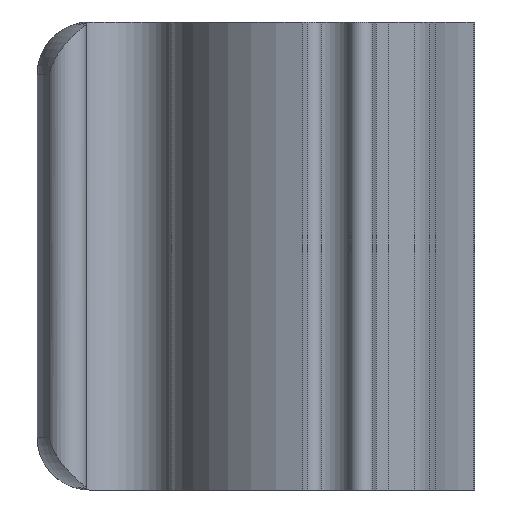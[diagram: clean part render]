
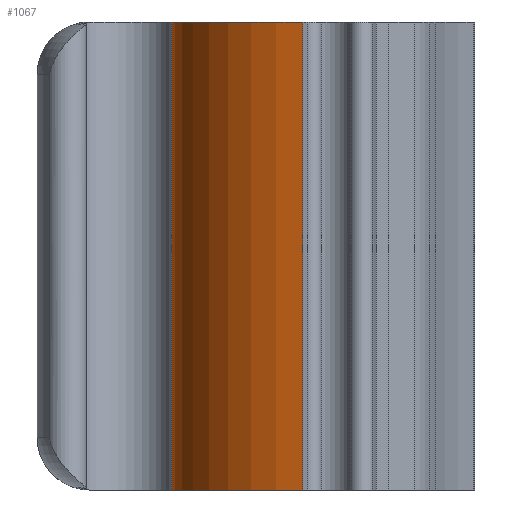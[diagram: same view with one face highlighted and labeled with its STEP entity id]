
A CAD part, front view. The second image highlights one B-rep face of the part: STEP entity #1067.
In plain terms, the highlighted cylindrical face has radius 6.988 mm (diameter 13.976 mm), a partial arc.
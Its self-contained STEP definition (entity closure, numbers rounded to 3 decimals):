
#1009=CARTESIAN_POINT('',(-5.439,-18.561,17.701));
#1010=VERTEX_POINT('',#1009);
#1018=CARTESIAN_POINT('',(-5.439,-18.561,0.001));
#1019=VERTEX_POINT('',#1018);
#1026=CARTESIAN_POINT('',(-5.439,-18.561,0.001));
#1027=DIRECTION('',(0.,0.,1.));
#1028=VECTOR('',#1027,17.7);
#1029=LINE('',#1026,#1028);
#1030=EDGE_CURVE('',#1019,#1010,#1029,.T.);
#1035=CARTESIAN_POINT('',(1.548,-18.434,0.001));
#1036=DIRECTION('',(0.,0.,1.));
#1037=DIRECTION('',(1.,0.,-0.));
#1038=AXIS2_PLACEMENT_3D('',#1035,#1036,#1037);
#1039=CYLINDRICAL_SURFACE('',#1038,6.988);
#1040=CARTESIAN_POINT('',(-0.49,-25.118,17.701));
#1041=VERTEX_POINT('',#1040);
#1042=CARTESIAN_POINT('',(1.548,-18.434,17.701));
#1043=DIRECTION('',(0.,0.,1.));
#1044=DIRECTION('',(1.,0.,-0.));
#1045=AXIS2_PLACEMENT_3D('',#1042,#1043,#1044);
#1046=CIRCLE('',#1045,6.988);
#1047=EDGE_CURVE('',#1010,#1041,#1046,.T.);
#1048=ORIENTED_EDGE('',*,*,#1047,.F.);
#1049=ORIENTED_EDGE('',*,*,#1030,.F.);
#1050=CARTESIAN_POINT('',(-0.49,-25.118,0.001));
#1051=VERTEX_POINT('',#1050);
#1052=CARTESIAN_POINT('',(1.548,-18.434,0.001));
#1053=DIRECTION('',(0.,0.,1.));
#1054=DIRECTION('',(1.,0.,-0.));
#1055=AXIS2_PLACEMENT_3D('',#1052,#1053,#1054);
#1056=CIRCLE('',#1055,6.988);
#1057=EDGE_CURVE('',#1019,#1051,#1056,.T.);
#1058=ORIENTED_EDGE('',*,*,#1057,.T.);
#1059=CARTESIAN_POINT('',(-0.49,-25.118,0.001));
#1060=DIRECTION('',(0.,0.,1.));
#1061=VECTOR('',#1060,17.7);
#1062=LINE('',#1059,#1061);
#1063=EDGE_CURVE('',#1051,#1041,#1062,.T.);
#1064=ORIENTED_EDGE('',*,*,#1063,.T.);
#1065=EDGE_LOOP('',(#1048,#1049,#1058,#1064));
#1066=FACE_BOUND('',#1065,.T.);
#1067=ADVANCED_FACE('',(#1066),#1039,.T.);
